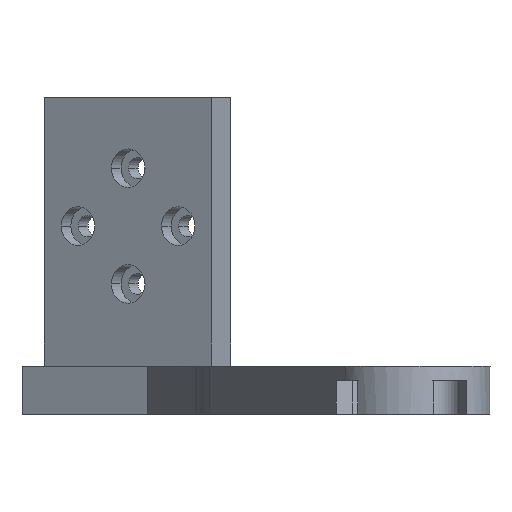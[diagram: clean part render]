
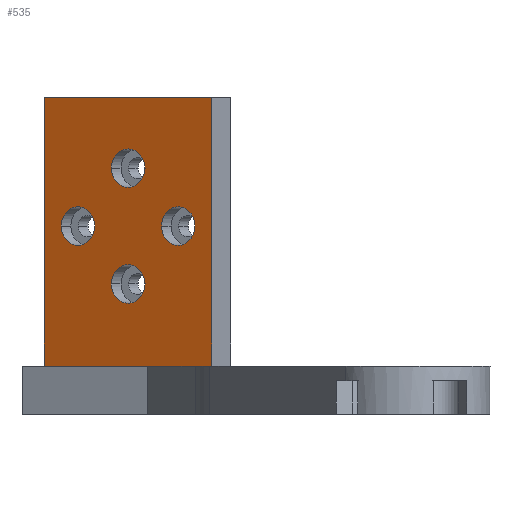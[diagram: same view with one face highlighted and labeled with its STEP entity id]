
A CAD part, left-side view. The second image highlights one B-rep face of the part: STEP entity #535.
In plain terms, the highlighted planar face has unit normal (-0.866, 0.5, 0) as drawn and (-0.5, 0.866, 0) by its records, which use the part's own axes.
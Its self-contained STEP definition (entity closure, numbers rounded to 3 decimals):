
#15 = CIRCLE ( 'NONE', #867, 2. ) ;
#20 = VECTOR ( 'NONE', #863, 1000. ) ;
#34 = ORIENTED_EDGE ( 'NONE', *, *, #1112, .F. ) ;
#42 = DIRECTION ( 'NONE',  ( 0., 0., -1. ) ) ;
#100 = VERTEX_POINT ( 'NONE', #801 ) ;
#115 = VECTOR ( 'NONE', #42, 1000. ) ;
#128 = CARTESIAN_POINT ( 'NONE',  ( 51.268, 2.464, -8.5 ) ) ;
#145 = DIRECTION ( 'NONE',  ( -0.866, -0.5, 0. ) ) ;
#147 = AXIS2_PLACEMENT_3D ( 'NONE', #749, #296, #1862 ) ;
#160 = VECTOR ( 'NONE', #279, 1000. ) ;
#180 = ORIENTED_EDGE ( 'NONE', *, *, #1068, .F. ) ;
#186 = CARTESIAN_POINT ( 'NONE',  ( 53., 3.464, -8.5 ) ) ;
#231 = CARTESIAN_POINT ( 'NONE',  ( 53., 3.464, -20.5 ) ) ;
#279 = DIRECTION ( 'NONE',  ( 0.866, 0.5, 0. ) ) ;
#296 = DIRECTION ( 'NONE',  ( -0.5, 0.866, 0. ) ) ;
#304 = CARTESIAN_POINT ( 'NONE',  ( 54.732, 4.464, -20.5 ) ) ;
#309 = EDGE_LOOP ( 'NONE', ( #1138, #1081 ) ) ;
#340 = VERTEX_POINT ( 'NONE', #1785 ) ;
#351 = ORIENTED_EDGE ( 'NONE', *, *, #701, .F. ) ;
#352 = DIRECTION ( 'NONE',  ( -0.5, 0.866, 0. ) ) ;
#368 = FACE_BOUND ( 'NONE', #1487, .T. ) ;
#373 = CARTESIAN_POINT ( 'NONE',  ( 49.536, 1.464, -14.5 ) ) ;
#375 = DIRECTION ( 'NONE',  ( -0.866, -0.5, 0. ) ) ;
#380 = VERTEX_POINT ( 'NONE', #1263 ) ;
#398 = DIRECTION ( 'NONE',  ( -0.5, 0.866, 0. ) ) ;
#441 = CIRCLE ( 'NONE', #602, 2. ) ;
#444 = CARTESIAN_POINT ( 'NONE',  ( 51.268, 2.464, -20.5 ) ) ;
#451 = CARTESIAN_POINT ( 'NONE',  ( 44.34, -1.536, -1.2 ) ) ;
#508 = EDGE_CURVE ( 'NONE', #1736, #645, #1386, .T. ) ;
#522 = VERTEX_POINT ( 'NONE', #1740 ) ;
#530 = DIRECTION ( 'NONE',  ( -0.5, 0.866, 0. ) ) ;
#535 = ADVANCED_FACE ( 'NONE', ( #368, #998, #855, #1579, #1783 ), #536, .T. ) ;
#536 = PLANE ( 'NONE',  #1419 ) ;
#554 = DIRECTION ( 'NONE',  ( -0.866, -0.5, 0. ) ) ;
#579 = DIRECTION ( 'NONE',  ( -0.866, -0.5, 0. ) ) ;
#600 = CARTESIAN_POINT ( 'NONE',  ( 44.34, -1.536, -1.2 ) ) ;
#602 = AXIS2_PLACEMENT_3D ( 'NONE', #231, #352, #1104 ) ;
#623 = ORIENTED_EDGE ( 'NONE', *, *, #1774, .F. ) ;
#630 = EDGE_CURVE ( 'NONE', #340, #522, #1178, .T. ) ;
#645 = VERTEX_POINT ( 'NONE', #128 ) ;
#656 = EDGE_CURVE ( 'NONE', #1125, #1132, #15, .T. ) ;
#669 = VERTEX_POINT ( 'NONE', #444 ) ;
#678 = CIRCLE ( 'NONE', #1542, 2. ) ;
#682 = ORIENTED_EDGE ( 'NONE', *, *, #656, .F. ) ;
#701 = EDGE_CURVE ( 'NONE', #100, #1290, #678, .T. ) ;
#702 = CARTESIAN_POINT ( 'NONE',  ( 53., 3.464, -20.5 ) ) ;
#704 = CARTESIAN_POINT ( 'NONE',  ( 61.66, 8.464, -1.2 ) ) ;
#717 = CIRCLE ( 'NONE', #147, 2. ) ;
#722 = LINE ( 'NONE', #704, #20 ) ;
#727 = AXIS2_PLACEMENT_3D ( 'NONE', #702, #1780, #554 ) ;
#729 = CIRCLE ( 'NONE', #1691, 2. ) ;
#733 = DIRECTION ( 'NONE',  ( -0.5, 0.866, 0. ) ) ;
#749 = CARTESIAN_POINT ( 'NONE',  ( 47.804, 0.464, -14.5 ) ) ;
#801 = CARTESIAN_POINT ( 'NONE',  ( 56.464, 5.464, -14.5 ) ) ;
#834 = DIRECTION ( 'NONE',  ( -0.866, -0.5, 0. ) ) ;
#847 = DIRECTION ( 'NONE',  ( -0.5, 0.866, 0. ) ) ;
#853 = VERTEX_POINT ( 'NONE', #451 ) ;
#855 = FACE_BOUND ( 'NONE', #1025, .T. ) ;
#863 = DIRECTION ( 'NONE',  ( 0.866, 0.5, 0. ) ) ;
#867 = AXIS2_PLACEMENT_3D ( 'NONE', #1520, #733, #145 ) ;
#909 = AXIS2_PLACEMENT_3D ( 'NONE', #186, #1817, #1409 ) ;
#934 = LINE ( 'NONE', #1238, #1926 ) ;
#956 = LINE ( 'NONE', #600, #115 ) ;
#962 = CARTESIAN_POINT ( 'NONE',  ( 53., 3.464, -8.5 ) ) ;
#998 = FACE_BOUND ( 'NONE', #1465, .T. ) ;
#1025 = EDGE_LOOP ( 'NONE', ( #351, #1321 ) ) ;
#1045 = CARTESIAN_POINT ( 'NONE',  ( 48.67, 0.964, -29. ) ) ;
#1058 = ORIENTED_EDGE ( 'NONE', *, *, #630, .F. ) ;
#1068 = EDGE_CURVE ( 'NONE', #669, #1385, #1927, .T. ) ;
#1081 = ORIENTED_EDGE ( 'NONE', *, *, #508, .F. ) ;
#1104 = DIRECTION ( 'NONE',  ( -0.866, -0.5, 0. ) ) ;
#1112 = EDGE_CURVE ( 'NONE', #1385, #669, #441, .T. ) ;
#1121 = DIRECTION ( 'NONE',  ( -0.866, -0.5, 0. ) ) ;
#1125 = VERTEX_POINT ( 'NONE', #373 ) ;
#1132 = VERTEX_POINT ( 'NONE', #1591 ) ;
#1138 = ORIENTED_EDGE ( 'NONE', *, *, #1849, .F. ) ;
#1178 = LINE ( 'NONE', #1045, #160 ) ;
#1221 = DIRECTION ( 'NONE',  ( 0., 0., -1. ) ) ;
#1229 = CIRCLE ( 'NONE', #909, 2. ) ;
#1238 = CARTESIAN_POINT ( 'NONE',  ( 61.66, 8.464, -1.2 ) ) ;
#1263 = CARTESIAN_POINT ( 'NONE',  ( 61.66, 8.464, -1.2 ) ) ;
#1290 = VERTEX_POINT ( 'NONE', #1967 ) ;
#1310 = CARTESIAN_POINT ( 'NONE',  ( 61.66, 8.464, -1.2 ) ) ;
#1321 = ORIENTED_EDGE ( 'NONE', *, *, #1609, .F. ) ;
#1336 = EDGE_CURVE ( 'NONE', #853, #380, #722, .T. ) ;
#1360 = DIRECTION ( 'NONE',  ( -0.5, 0.866, 0. ) ) ;
#1366 = CARTESIAN_POINT ( 'NONE',  ( 58.196, 6.464, -14.5 ) ) ;
#1385 = VERTEX_POINT ( 'NONE', #304 ) ;
#1386 = CIRCLE ( 'NONE', #1870, 2. ) ;
#1404 = EDGE_CURVE ( 'NONE', #380, #522, #934, .T. ) ;
#1409 = DIRECTION ( 'NONE',  ( -0.866, -0.5, 0. ) ) ;
#1419 = AXIS2_PLACEMENT_3D ( 'NONE', #1310, #847, #834 ) ;
#1465 = EDGE_LOOP ( 'NONE', ( #180, #34 ) ) ;
#1487 = EDGE_LOOP ( 'NONE', ( #623, #682 ) ) ;
#1520 = CARTESIAN_POINT ( 'NONE',  ( 47.804, 0.464, -14.5 ) ) ;
#1542 = AXIS2_PLACEMENT_3D ( 'NONE', #1366, #1360, #579 ) ;
#1579 = FACE_BOUND ( 'NONE', #309, .T. ) ;
#1591 = CARTESIAN_POINT ( 'NONE',  ( 46.072, -0.536, -14.5 ) ) ;
#1609 = EDGE_CURVE ( 'NONE', #1290, #100, #729, .T. ) ;
#1625 = ORIENTED_EDGE ( 'NONE', *, *, #1827, .F. ) ;
#1651 = ORIENTED_EDGE ( 'NONE', *, *, #1404, .T. ) ;
#1691 = AXIS2_PLACEMENT_3D ( 'NONE', #1746, #530, #375 ) ;
#1736 = VERTEX_POINT ( 'NONE', #1965 ) ;
#1740 = CARTESIAN_POINT ( 'NONE',  ( 61.66, 8.464, -29. ) ) ;
#1746 = CARTESIAN_POINT ( 'NONE',  ( 58.196, 6.464, -14.5 ) ) ;
#1773 = ORIENTED_EDGE ( 'NONE', *, *, #1336, .T. ) ;
#1774 = EDGE_CURVE ( 'NONE', #1132, #1125, #717, .T. ) ;
#1780 = DIRECTION ( 'NONE',  ( -0.5, 0.866, 0. ) ) ;
#1783 = FACE_OUTER_BOUND ( 'NONE', #1848, .T. ) ;
#1785 = CARTESIAN_POINT ( 'NONE',  ( 44.34, -1.536, -29. ) ) ;
#1817 = DIRECTION ( 'NONE',  ( -0.5, 0.866, 0. ) ) ;
#1827 = EDGE_CURVE ( 'NONE', #853, #340, #956, .T. ) ;
#1848 = EDGE_LOOP ( 'NONE', ( #1651, #1058, #1625, #1773 ) ) ;
#1849 = EDGE_CURVE ( 'NONE', #645, #1736, #1229, .T. ) ;
#1862 = DIRECTION ( 'NONE',  ( -0.866, -0.5, 0. ) ) ;
#1870 = AXIS2_PLACEMENT_3D ( 'NONE', #962, #398, #1121 ) ;
#1926 = VECTOR ( 'NONE', #1221, 1000. ) ;
#1927 = CIRCLE ( 'NONE', #727, 2. ) ;
#1965 = CARTESIAN_POINT ( 'NONE',  ( 54.732, 4.464, -8.5 ) ) ;
#1967 = CARTESIAN_POINT ( 'NONE',  ( 59.928, 7.464, -14.5 ) ) ;
